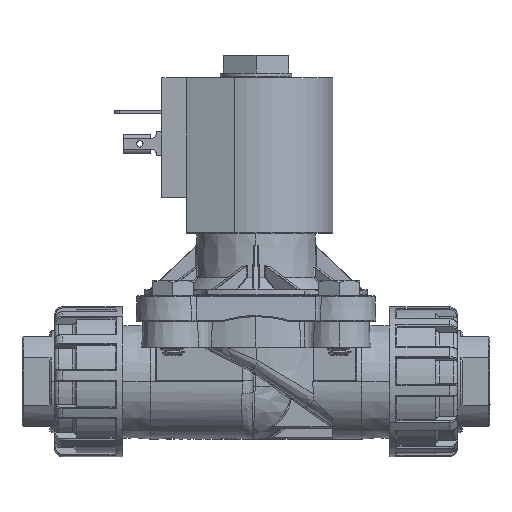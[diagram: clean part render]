
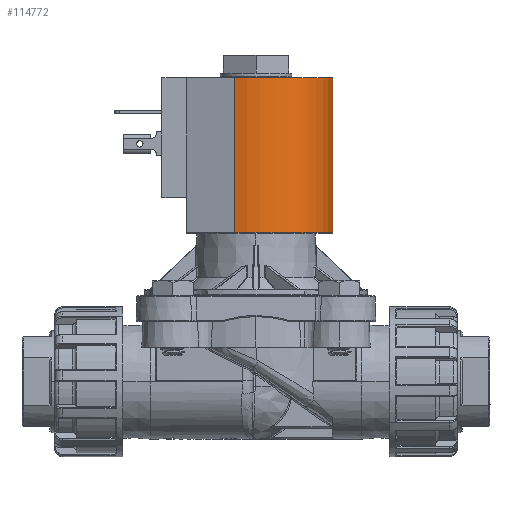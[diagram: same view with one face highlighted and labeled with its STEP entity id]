
A CAD part, top view. The second image highlights one B-rep face of the part: STEP entity #114772.
In plain terms, the highlighted cylindrical face has radius 20.32 mm (diameter 40.64 mm), a partial arc.
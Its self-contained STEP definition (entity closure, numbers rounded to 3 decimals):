
#6625 = CARTESIAN_POINT ( 'NONE',  ( 20.32, 73.508, 0. ) ) ;
#8848 = DIRECTION ( 'NONE',  ( -1., 0., 0. ) ) ;
#9143 = CARTESIAN_POINT ( 'NONE',  ( 0., 73.508, 0. ) ) ;
#17517 = CARTESIAN_POINT ( 'NONE',  ( -5.608, 73.508, 19.531 ) ) ;
#24900 = VERTEX_POINT ( 'NONE', #107838 ) ;
#25003 = ORIENTED_EDGE ( 'NONE', *, *, #110879, .F. ) ;
#25525 = EDGE_CURVE ( 'NONE', #98224, #101727, #26914, .T. ) ;
#26914 = LINE ( 'NONE', #17517, #63394 ) ;
#27354 = CARTESIAN_POINT ( 'NONE',  ( -5.608, 32.36, 19.531 ) ) ;
#28551 = ORIENTED_EDGE ( 'NONE', *, *, #25525, .T. ) ;
#29894 = DIRECTION ( 'NONE',  ( -1., 0., 0. ) ) ;
#29921 = EDGE_LOOP ( 'NONE', ( #50003, #25003, #28551, #120848 ) ) ;
#35237 = CARTESIAN_POINT ( 'NONE',  ( -5.608, 73.508, 19.531 ) ) ;
#37049 = EDGE_CURVE ( 'NONE', #49695, #24900, #48226, .T. ) ;
#39999 = AXIS2_PLACEMENT_3D ( 'NONE', #110192, #53338, #8848 ) ;
#48226 = LINE ( 'NONE', #122615, #101734 ) ;
#49695 = VERTEX_POINT ( 'NONE', #6625 ) ;
#50003 = ORIENTED_EDGE ( 'NONE', *, *, #37049, .F. ) ;
#53338 = DIRECTION ( 'NONE',  ( 0., 1., 0. ) ) ;
#54584 = AXIS2_PLACEMENT_3D ( 'NONE', #77496, #115589, #29894 ) ;
#63394 = VECTOR ( 'NONE', #75147, 1000. ) ;
#65511 = CYLINDRICAL_SURFACE ( 'NONE', #87633, 20.32 ) ;
#75147 = DIRECTION ( 'NONE',  ( 0., -1., 0. ) ) ;
#75525 = FACE_OUTER_BOUND ( 'NONE', #29921, .T. ) ;
#77496 = CARTESIAN_POINT ( 'NONE',  ( 0., 73.508, 0. ) ) ;
#85141 = DIRECTION ( 'NONE',  ( 0., -1., 0. ) ) ;
#86766 = DIRECTION ( 'NONE',  ( 1., 0., 0. ) ) ;
#87633 = AXIS2_PLACEMENT_3D ( 'NONE', #9143, #96137, #86766 ) ;
#96137 = DIRECTION ( 'NONE',  ( 0., -1., 0. ) ) ;
#98224 = VERTEX_POINT ( 'NONE', #35237 ) ;
#101727 = VERTEX_POINT ( 'NONE', #27354 ) ;
#101734 = VECTOR ( 'NONE', #85141, 1000. ) ;
#107818 = CIRCLE ( 'NONE', #39999, 20.32 ) ;
#107838 = CARTESIAN_POINT ( 'NONE',  ( 20.32, 32.36, 0. ) ) ;
#108499 = CIRCLE ( 'NONE', #54584, 20.32 ) ;
#110192 = CARTESIAN_POINT ( 'NONE',  ( 0., 32.36, 0. ) ) ;
#110879 = EDGE_CURVE ( 'NONE', #98224, #49695, #108499, .T. ) ;
#114772 = ADVANCED_FACE ( 'Defeatured_0_1847', ( #75525 ), #65511, .T. ) ;
#115589 = DIRECTION ( 'NONE',  ( 0., 1., 0. ) ) ;
#120848 = ORIENTED_EDGE ( 'NONE', *, *, #122080, .T. ) ;
#122080 = EDGE_CURVE ( 'NONE', #101727, #24900, #107818, .T. ) ;
#122615 = CARTESIAN_POINT ( 'NONE',  ( 20.32, 73.508, 0. ) ) ;
